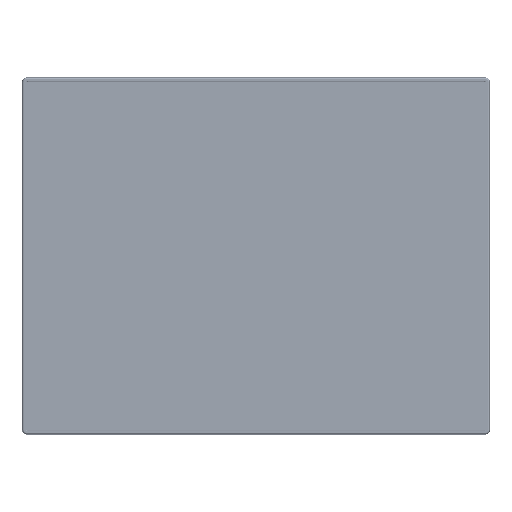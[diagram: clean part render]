
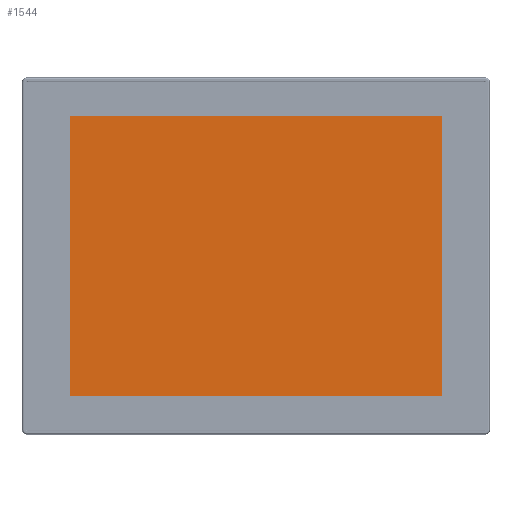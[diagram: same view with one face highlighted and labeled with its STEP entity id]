
A CAD part, top view. The second image highlights one B-rep face of the part: STEP entity #1544.
In plain terms, the highlighted planar face has unit normal (0, 0, 1).
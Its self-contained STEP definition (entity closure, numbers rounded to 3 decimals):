
#1544 = ADVANCED_FACE ( 'NONE', ( #78614 ), #221120, .T. ) ;
#6413 = VECTOR ( 'NONE', #257911, 1000. ) ;
#12935 = VECTOR ( 'NONE', #146583, 1000. ) ;
#29825 = ORIENTED_EDGE ( 'NONE', *, *, #116390, .T. ) ;
#37198 = LINE ( 'NONE', #196095, #147807 ) ;
#41221 = VECTOR ( 'NONE', #72879, 1000. ) ;
#45172 = DIRECTION ( 'NONE',  ( 0., 0., 1. ) ) ;
#46248 = ORIENTED_EDGE ( 'NONE', *, *, #107349, .T. ) ;
#48479 = EDGE_LOOP ( 'NONE', ( #46248, #268173, #272916, #29825 ) ) ;
#60586 = AXIS2_PLACEMENT_3D ( 'NONE', #133063, #45172, #199744 ) ;
#63643 = DIRECTION ( 'NONE',  ( -1., 0., 0. ) ) ;
#65204 = LINE ( 'NONE', #256995, #6413 ) ;
#72879 = DIRECTION ( 'NONE',  ( 0., -1., 0. ) ) ;
#78614 = FACE_OUTER_BOUND ( 'NONE', #48479, .T. ) ;
#107349 = EDGE_CURVE ( 'NONE', #200899, #127398, #172708, .T. ) ;
#116390 = EDGE_CURVE ( 'NONE', #272379, #200899, #37198, .T. ) ;
#127398 = VERTEX_POINT ( 'NONE', #254652 ) ;
#133063 = CARTESIAN_POINT ( 'NONE',  ( -123.6, -93.15, 7.1 ) ) ;
#146583 = DIRECTION ( 'NONE',  ( 0., 1., 0. ) ) ;
#146701 = CARTESIAN_POINT ( 'NONE',  ( 123.6, -93.15, 7.1 ) ) ;
#147807 = VECTOR ( 'NONE', #63643, 1000. ) ;
#172708 = LINE ( 'NONE', #227605, #41221 ) ;
#182400 = LINE ( 'NONE', #191096, #12935 ) ;
#191096 = CARTESIAN_POINT ( 'NONE',  ( 123.6, 93.15, 7.1 ) ) ;
#194896 = CARTESIAN_POINT ( 'NONE',  ( -123.6, 93.15, 7.1 ) ) ;
#196095 = CARTESIAN_POINT ( 'NONE',  ( -123.6, 93.15, 7.1 ) ) ;
#199744 = DIRECTION ( 'NONE',  ( 1., 0., 0. ) ) ;
#200899 = VERTEX_POINT ( 'NONE', #194896 ) ;
#211360 = EDGE_CURVE ( 'NONE', #127398, #262710, #65204, .T. ) ;
#221120 = PLANE ( 'NONE',  #60586 ) ;
#227605 = CARTESIAN_POINT ( 'NONE',  ( -123.6, 93.15, 7.1 ) ) ;
#234066 = CARTESIAN_POINT ( 'NONE',  ( 123.6, 93.15, 7.1 ) ) ;
#254652 = CARTESIAN_POINT ( 'NONE',  ( -123.6, -93.15, 7.1 ) ) ;
#256995 = CARTESIAN_POINT ( 'NONE',  ( -123.6, -93.15, 7.1 ) ) ;
#257911 = DIRECTION ( 'NONE',  ( 1., 0., 0. ) ) ;
#262710 = VERTEX_POINT ( 'NONE', #146701 ) ;
#268173 = ORIENTED_EDGE ( 'NONE', *, *, #211360, .T. ) ;
#272379 = VERTEX_POINT ( 'NONE', #234066 ) ;
#272916 = ORIENTED_EDGE ( 'NONE', *, *, #284234, .T. ) ;
#284234 = EDGE_CURVE ( 'NONE', #262710, #272379, #182400, .T. ) ;
